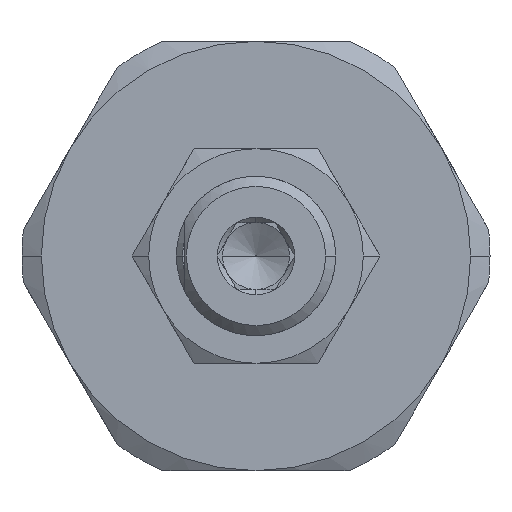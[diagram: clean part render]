
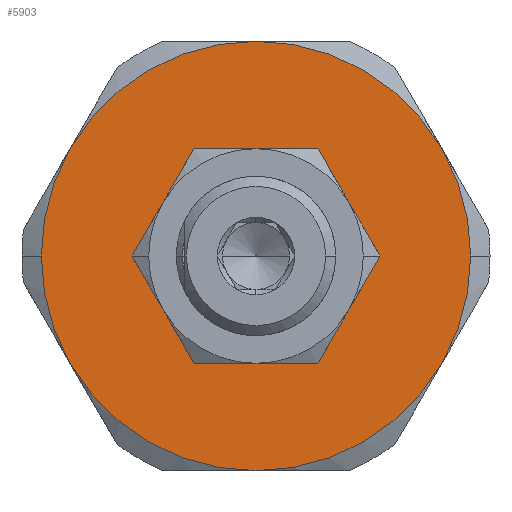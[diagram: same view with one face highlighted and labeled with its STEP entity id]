
A CAD part, left-side view. The second image highlights one B-rep face of the part: STEP entity #5903.
In plain terms, the highlighted planar face has unit normal (-1, 0, 0).
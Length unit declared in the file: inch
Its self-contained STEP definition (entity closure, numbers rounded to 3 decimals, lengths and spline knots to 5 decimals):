
#1648=CARTESIAN_POINT('',(0.,0.25,2.0));
#1649=VERTEX_POINT('',#1648);
#1656=CARTESIAN_POINT('',(0.,0.21651,2.125));
#1657=VERTEX_POINT('',#1656);
#1671=CARTESIAN_POINT('',(0.,0.,2.0));
#1672=DIRECTION('',(1.0,0.0,0.0));
#1673=DIRECTION('',(0.0,1.0,0.0));
#1674=AXIS2_PLACEMENT_3D('',#1671,#1672,#1673);
#1675=CIRCLE('',#1674,0.25);
#1676=EDGE_CURVE('',#1649,#1657,#1675,.T.);
#1686=CARTESIAN_POINT('',(0.,-0.25,2.0));
#1687=VERTEX_POINT('',#1686);
#1696=CARTESIAN_POINT('',(0.,-0.21651,2.125));
#1697=VERTEX_POINT('',#1696);
#1698=CARTESIAN_POINT('',(0.,0.,2.0));
#1699=DIRECTION('',(1.0,0.0,0.0));
#1700=DIRECTION('',(0.0,1.0,0.0));
#1701=AXIS2_PLACEMENT_3D('',#1698,#1699,#1700);
#1702=CIRCLE('',#1701,0.25);
#1703=EDGE_CURVE('',#1697,#1687,#1702,.T.);
#2058=CARTESIAN_POINT('',(0.,0.5,2.));
#2059=VERTEX_POINT('',#2058);
#2075=CARTESIAN_POINT('',(0.,0.43301,1.75));
#2076=VERTEX_POINT('',#2075);
#2090=CARTESIAN_POINT('',(0.,0.,2.0));
#2091=DIRECTION('',(-1.0,0.0,0.0));
#2092=DIRECTION('',(0.0,1.0,0.0));
#2093=AXIS2_PLACEMENT_3D('',#2090,#2091,#2092);
#2094=CIRCLE('',#2093,0.5);
#2095=EDGE_CURVE('',#2059,#2076,#2094,.T.);
#2105=CARTESIAN_POINT('',(0.,-0.5,2.0));
#2106=VERTEX_POINT('',#2105);
#2113=CARTESIAN_POINT('',(0.,-0.43301,1.75));
#2114=VERTEX_POINT('',#2113);
#2115=CARTESIAN_POINT('',(0.,0.,2.0));
#2116=DIRECTION('',(-1.0,0.0,0.0));
#2117=DIRECTION('',(0.0,1.0,0.0));
#2118=AXIS2_PLACEMENT_3D('',#2115,#2116,#2117);
#2119=CIRCLE('',#2118,0.5);
#2120=EDGE_CURVE('',#2114,#2106,#2119,.T.);
#5790=CARTESIAN_POINT('',(0.,0.,2.));
#5791=DIRECTION('',(1.0,0.0,0.0));
#5792=DIRECTION('',(0.0,0.0,-1.0));
#5793=AXIS2_PLACEMENT_3D('',#5790,#5791,#5792);
#5794=PLANE('',#5793);
#5795=CARTESIAN_POINT('',(0.,-0.43301,2.25));
#5796=VERTEX_POINT('',#5795);
#5797=CARTESIAN_POINT('',(0.,0.,2.5));
#5798=VERTEX_POINT('',#5797);
#5799=CARTESIAN_POINT('',(0.,0.,2.0));
#5800=DIRECTION('',(-1.0,0.0,0.0));
#5801=DIRECTION('',(0.0,1.0,0.0));
#5802=AXIS2_PLACEMENT_3D('',#5799,#5800,#5801);
#5803=CIRCLE('',#5802,0.5);
#5804=EDGE_CURVE('',#5796,#5798,#5803,.T.);
#5805=ORIENTED_EDGE('',*,*,#5804,.T.);
#5806=CARTESIAN_POINT('',(0.,0.43301,2.25));
#5807=VERTEX_POINT('',#5806);
#5808=CARTESIAN_POINT('',(0.,0.,2.0));
#5809=DIRECTION('',(-1.0,0.0,0.0));
#5810=DIRECTION('',(0.0,1.0,0.0));
#5811=AXIS2_PLACEMENT_3D('',#5808,#5809,#5810);
#5812=CIRCLE('',#5811,0.5);
#5813=EDGE_CURVE('',#5798,#5807,#5812,.T.);
#5814=ORIENTED_EDGE('',*,*,#5813,.T.);
#5815=CARTESIAN_POINT('',(0.,0.,2.0));
#5816=DIRECTION('',(-1.0,0.0,0.0));
#5817=DIRECTION('',(0.0,1.0,0.0));
#5818=AXIS2_PLACEMENT_3D('',#5815,#5816,#5817);
#5819=CIRCLE('',#5818,0.5);
#5820=EDGE_CURVE('',#5807,#2059,#5819,.T.);
#5821=ORIENTED_EDGE('',*,*,#5820,.T.);
#5822=ORIENTED_EDGE('',*,*,#2095,.T.);
#5823=CARTESIAN_POINT('',(0.,0.,1.5));
#5824=VERTEX_POINT('',#5823);
#5825=CARTESIAN_POINT('',(0.,0.,2.0));
#5826=DIRECTION('',(-1.0,0.0,0.0));
#5827=DIRECTION('',(0.0,1.0,0.0));
#5828=AXIS2_PLACEMENT_3D('',#5825,#5826,#5827);
#5829=CIRCLE('',#5828,0.5);
#5830=EDGE_CURVE('',#2076,#5824,#5829,.T.);
#5831=ORIENTED_EDGE('',*,*,#5830,.T.);
#5832=CARTESIAN_POINT('',(0.,0.,2.0));
#5833=DIRECTION('',(-1.0,0.0,0.0));
#5834=DIRECTION('',(0.0,1.0,0.0));
#5835=AXIS2_PLACEMENT_3D('',#5832,#5833,#5834);
#5836=CIRCLE('',#5835,0.5);
#5837=EDGE_CURVE('',#5824,#2114,#5836,.T.);
#5838=ORIENTED_EDGE('',*,*,#5837,.T.);
#5839=ORIENTED_EDGE('',*,*,#2120,.T.);
#5840=CARTESIAN_POINT('',(0.,0.,2.0));
#5841=DIRECTION('',(-1.0,0.0,0.0));
#5842=DIRECTION('',(0.0,1.0,0.0));
#5843=AXIS2_PLACEMENT_3D('',#5840,#5841,#5842);
#5844=CIRCLE('',#5843,0.5);
#5845=EDGE_CURVE('',#2106,#5796,#5844,.T.);
#5846=ORIENTED_EDGE('',*,*,#5845,.T.);
#5847=EDGE_LOOP('',(#5805,#5814,#5821,#5822,#5831,#5838,#5839,#5846));
#5848=FACE_OUTER_BOUND('',#5847,.T.);
#5849=CARTESIAN_POINT('',(0.,-0.21651,1.875));
#5850=VERTEX_POINT('',#5849);
#5851=CARTESIAN_POINT('',(0.,0.,1.75));
#5852=VERTEX_POINT('',#5851);
#5853=CARTESIAN_POINT('',(0.,0.,2.0));
#5854=DIRECTION('',(1.0,0.0,0.0));
#5855=DIRECTION('',(0.0,1.0,0.0));
#5856=AXIS2_PLACEMENT_3D('',#5853,#5854,#5855);
#5857=CIRCLE('',#5856,0.25);
#5858=EDGE_CURVE('',#5850,#5852,#5857,.T.);
#5859=ORIENTED_EDGE('',*,*,#5858,.T.);
#5860=CARTESIAN_POINT('',(0.,0.21651,1.875));
#5861=VERTEX_POINT('',#5860);
#5862=CARTESIAN_POINT('',(0.,0.,2.0));
#5863=DIRECTION('',(1.0,0.0,0.0));
#5864=DIRECTION('',(0.0,1.0,0.0));
#5865=AXIS2_PLACEMENT_3D('',#5862,#5863,#5864);
#5866=CIRCLE('',#5865,0.25);
#5867=EDGE_CURVE('',#5852,#5861,#5866,.T.);
#5868=ORIENTED_EDGE('',*,*,#5867,.T.);
#5869=CARTESIAN_POINT('',(0.,0.,2.0));
#5870=DIRECTION('',(1.0,0.0,0.0));
#5871=DIRECTION('',(0.0,1.0,0.0));
#5872=AXIS2_PLACEMENT_3D('',#5869,#5870,#5871);
#5873=CIRCLE('',#5872,0.25);
#5874=EDGE_CURVE('',#5861,#1649,#5873,.T.);
#5875=ORIENTED_EDGE('',*,*,#5874,.T.);
#5876=ORIENTED_EDGE('',*,*,#1676,.T.);
#5877=CARTESIAN_POINT('',(0.,0.,2.25));
#5878=VERTEX_POINT('',#5877);
#5879=CARTESIAN_POINT('',(0.,0.,2.0));
#5880=DIRECTION('',(1.0,0.0,0.0));
#5881=DIRECTION('',(0.0,1.0,0.0));
#5882=AXIS2_PLACEMENT_3D('',#5879,#5880,#5881);
#5883=CIRCLE('',#5882,0.25);
#5884=EDGE_CURVE('',#1657,#5878,#5883,.T.);
#5885=ORIENTED_EDGE('',*,*,#5884,.T.);
#5886=CARTESIAN_POINT('',(0.,0.,2.0));
#5887=DIRECTION('',(1.0,0.0,0.0));
#5888=DIRECTION('',(0.0,1.0,0.0));
#5889=AXIS2_PLACEMENT_3D('',#5886,#5887,#5888);
#5890=CIRCLE('',#5889,0.25);
#5891=EDGE_CURVE('',#5878,#1697,#5890,.T.);
#5892=ORIENTED_EDGE('',*,*,#5891,.T.);
#5893=ORIENTED_EDGE('',*,*,#1703,.T.);
#5894=CARTESIAN_POINT('',(0.,0.,2.0));
#5895=DIRECTION('',(1.0,0.0,0.0));
#5896=DIRECTION('',(0.0,1.0,0.0));
#5897=AXIS2_PLACEMENT_3D('',#5894,#5895,#5896);
#5898=CIRCLE('',#5897,0.25);
#5899=EDGE_CURVE('',#1687,#5850,#5898,.T.);
#5900=ORIENTED_EDGE('',*,*,#5899,.T.);
#5901=EDGE_LOOP('',(#5859,#5868,#5875,#5876,#5885,#5892,#5893,#5900));
#5902=FACE_BOUND('',#5901,.T.);
#5903=ADVANCED_FACE('',(#5848,#5902),#5794,.F.);
